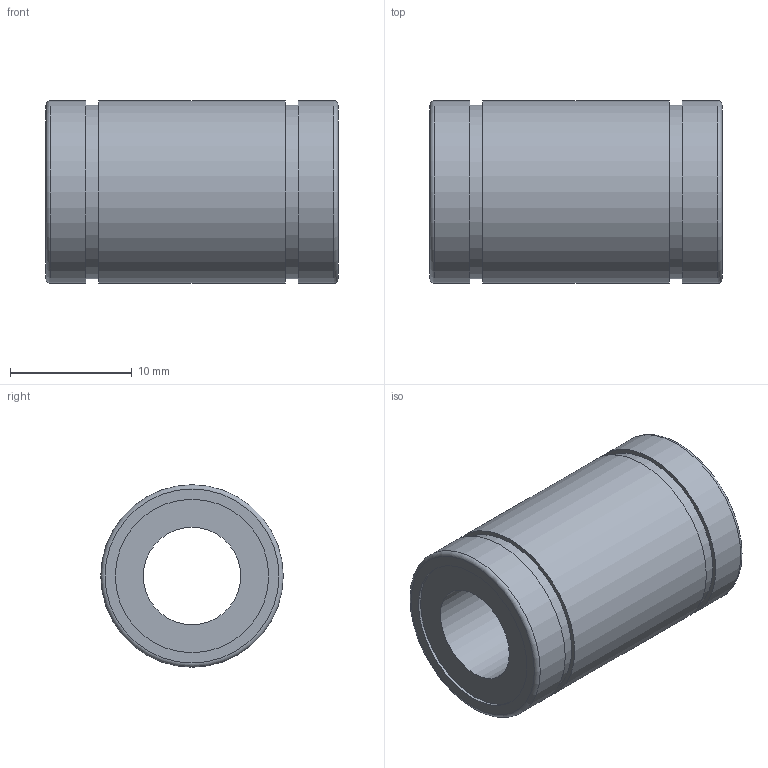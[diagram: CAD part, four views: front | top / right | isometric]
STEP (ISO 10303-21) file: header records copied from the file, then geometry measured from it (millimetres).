
FILE_DESCRIPTION(/* description */ ('STEP AP214'),/* implementation_level */ '2;1');
FILE_NAME(/* name */ '\\JOINapp01\Profiles\martins\Desktop\rolamento\LM8UU.step',/* time_stamp */ '2018-02-14T08:13:14-02:00',/* author */ ('martins'),/* organization */ ('TraceParts S.A.'),/* preprocessor_version */ 'ST-DEVELOPER v16.1',/* originating_system */ 'Autodesk Inventor 2016',/* authorisation */ ' ');
FILE_SCHEMA (('AUTOMOTIVE_DESIGN { 1 0 10303 214 3 1 1 }'));
Length unit declared in the file: millimetre
Products named in the file (2): lm8uu; Assembly3
Assembly tree (1 placements, depth 2):
  Assembly3
    lm8uu
Bounding box: 24 x 15 x 15 mm (x, y, z)
Volume: 2960.8 mm3; surface area: 2044.9 mm2
Topology: 1 solids, 1 shells, 181 faces, 478 edges, 319 vertices
Faces by surface type: plane 120, bspline 51, cylinder 8, torus 2
Full cylindrical faces by diameter (mm): 8 x1, 12.6 x2, 14.3 x2, 15 x3
Entity records: 5998 total; most frequent: CARTESIAN_POINT 1789, ORIENTED_EDGE 930, DIRECTION 647, EDGE_CURVE 465, LINE 345, VECTOR 345, VERTEX_POINT 316, EDGE_LOOP 213
